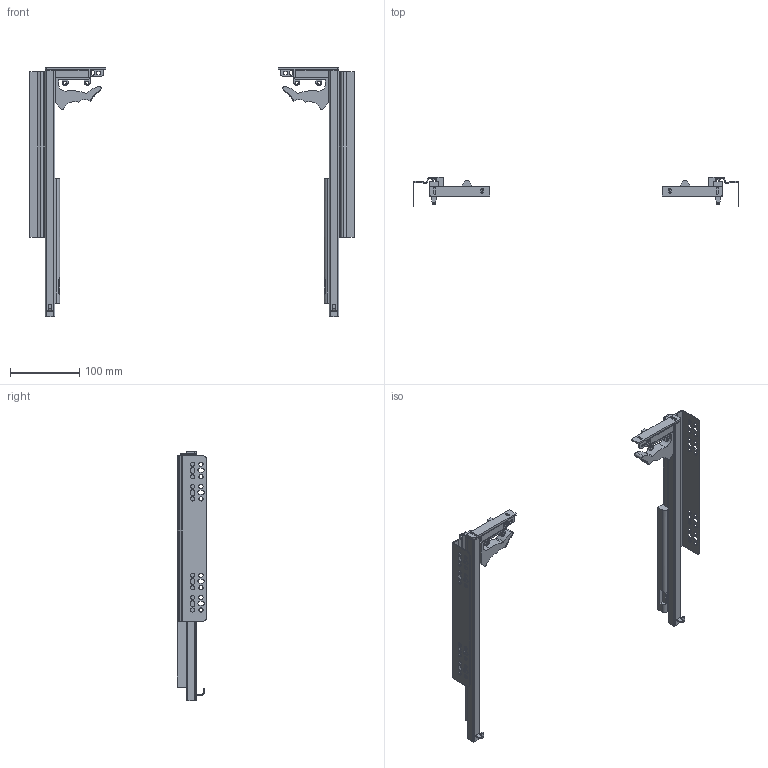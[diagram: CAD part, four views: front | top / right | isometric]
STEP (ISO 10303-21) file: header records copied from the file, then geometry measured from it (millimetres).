
FILE_DESCRIPTION(/* description */ ('Akc'),/* implementation_level */ '2;1');
FILE_NAME(/* name */ 'C:\Users\dmitruk\Documents\WORK\НАПРАВЛЯЮЩИЕ\Скрытого монтажа\Q-Type\Q-Type с замками (18 мм)\Q-Type с замками (18 мм)-350.stp',/* time_stamp */ '2022-04-22T17:47:05+03:00',/* author */ ('dmitruk'),/* organization */ (''),/* preprocessor_version */ 'ST-DEVELOPER v16.5',/* originating_system */ 'Autodesk Inventor 2017',/* authorisation */ '');
FILE_SCHEMA (('AUTOMOTIVE_DESIGN { 1 0 10303 214 3 1 1 }'));
Length unit declared in the file: millimetre
Products named in the file (6): Q-Type с замками 
(18 мм); Q-Type с замками \X2\043E0441
043D043E04320430043D04380435\X0\ L (18 мм); Q-Type с замками \X2\043E0441
043D043E04320430043D04380435\X0\ P (18 мм); Q-Type с замками 
выдвижение P; Крепление QType; Крепление QType P
Assembly tree (6 placements, depth 2):
  Q-Type с замками 
(18 мм)
    Q-Type с замками \X2\043E0441
043D043E04320430043D04380435\X0\ L (18 мм)
    Q-Type с замками 
выдвижение P  x2
    Q-Type с замками \X2\043E0441
043D043E04320430043D04380435\X0\ P (18 мм)
    Крепление QType
    Крепление QType P
Bounding box: 469.18 x 42 x 360 mm (x, y, z)
Volume: 211061.3 mm3; surface area: 210337.9 mm2
Topology: 14 solids, 14 shells, 570 faces, 1552 edges, 1014 vertices
Faces by surface type: plane 334, cylinder 212, cone 20, bspline 4
Full cylindrical faces by diameter (mm): 4.5 x4, 6 x32
Entity records: 17193 total; most frequent: CARTESIAN_POINT 2985, DIRECTION 2874, ORIENTED_EDGE 2800, EDGE_CURVE 1400, LINE 980, VECTOR 980, AXIS2_PLACEMENT_3D 947, VERTEX_POINT 942
